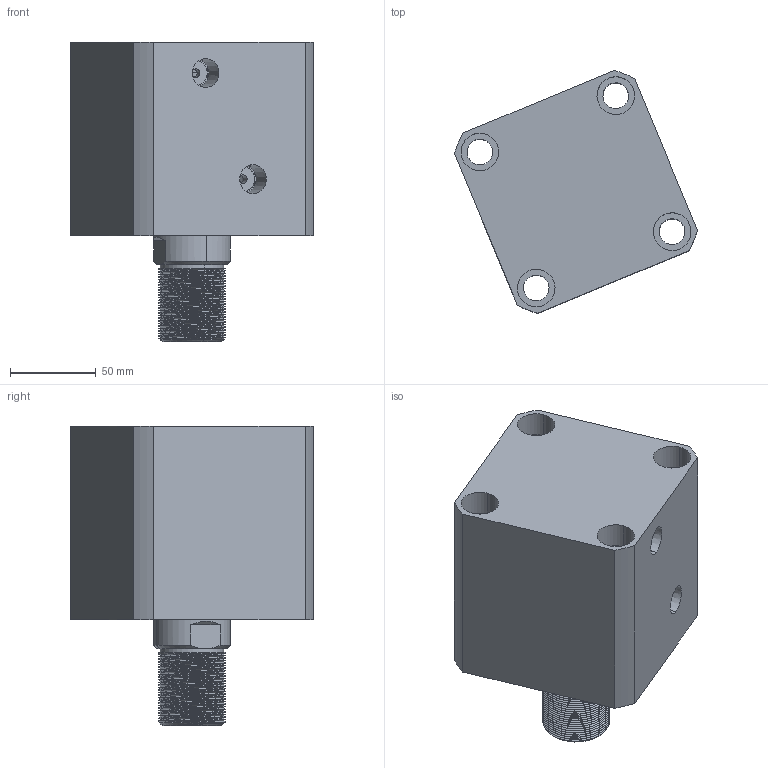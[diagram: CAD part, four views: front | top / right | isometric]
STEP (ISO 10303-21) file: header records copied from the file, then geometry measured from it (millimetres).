
FILE_DESCRIPTION (( 'STEP AP214' ), '1' );
FILE_NAME ('chtb-sd80x35n_asm.STEP', '2018-05-26T08:52:42', ( 'Windows' ), ( 'Microsoft' ), 'SwSTEP 2.0', 'SolidWorks 2015', '' );
FILE_SCHEMA (( 'AUTOMOTIVE_DESIGN' ));
Length unit declared in the file: millimetre
Products named in the file (4): CHTB-SD80X35NHSG; CHTB-SD80X35NBT; CHTB-SD80QG; chtb-sd80x35n_asm
Assembly tree (3 placements, depth 2):
  chtb-sd80x35n_asm
    CHTB-SD80QG
    CHTB-SD80X35NBT
    CHTB-SD80X35NHSG
Bounding box: 142.06 x 142.06 x 175 mm (x, y, z)
Volume: 1281678.5 mm3; surface area: 191947.1 mm2
Topology: 3 solids, 3 shells, 253 faces, 689 edges, 462 vertices
Faces by surface type: cylinder 159, plane 40, cone 20, torus 18, bspline 16
Entity records: 20271 total; most frequent: CARTESIAN_POINT 14293, ORIENTED_EDGE 1370, DIRECTION 1078, EDGE_CURVE 685, VERTEX_POINT 462, AXIS2_PLACEMENT_3D 439, EDGE_LOOP 291, ADVANCED_FACE 253
